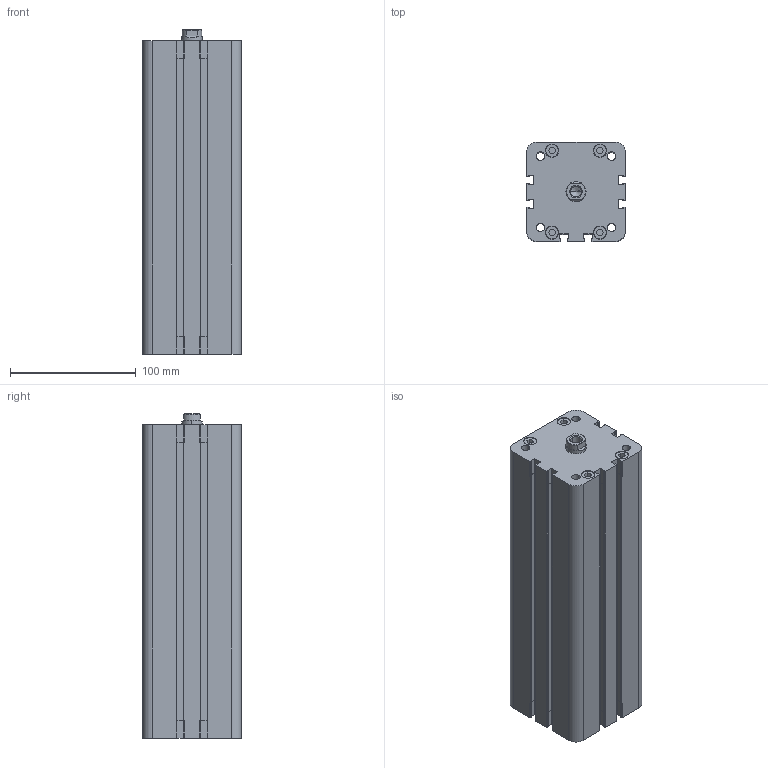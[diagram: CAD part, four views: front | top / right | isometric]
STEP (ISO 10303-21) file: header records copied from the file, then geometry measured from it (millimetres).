
FILE_DESCRIPTION (( 'STEP AP203' ), '1' );
FILE_NAME ('WF0630200A.step', '2013-04-22T07:13:35', ( '' ), ( '' ), 'SwSTEP 2.0', 'SolidWorks 2012', '' );
FILE_SCHEMA (( 'CONFIG_CONTROL_DESIGN' ));
Length unit declared in the file: millimetre
Products named in the file (1): WF0630200A
Bounding box: 78.5 x 78.5 x 257.5 mm (x, y, z)
Volume: 1430837.9 mm3; surface area: 132461.1 mm2
Topology: 1 solids, 1 shells, 457 faces, 1264 edges, 836 vertices
Faces by surface type: plane 230, cylinder 209, cone 18
Entity records: 14848 total; most frequent: CARTESIAN_POINT 2710, DIRECTION 2579, ORIENTED_EDGE 2524, EDGE_CURVE 1262, AXIS2_PLACEMENT_3D 881, VERTEX_POINT 836, LINE 817, VECTOR 817
